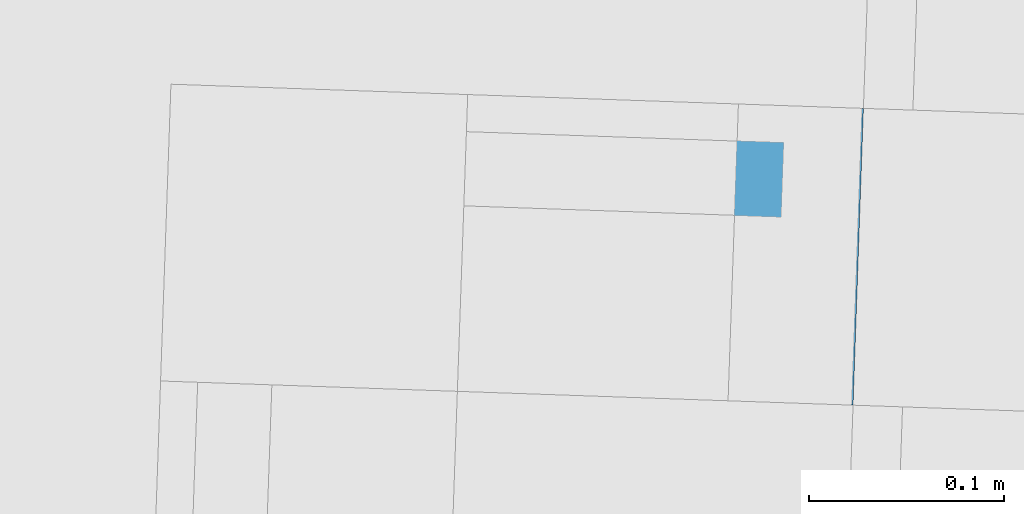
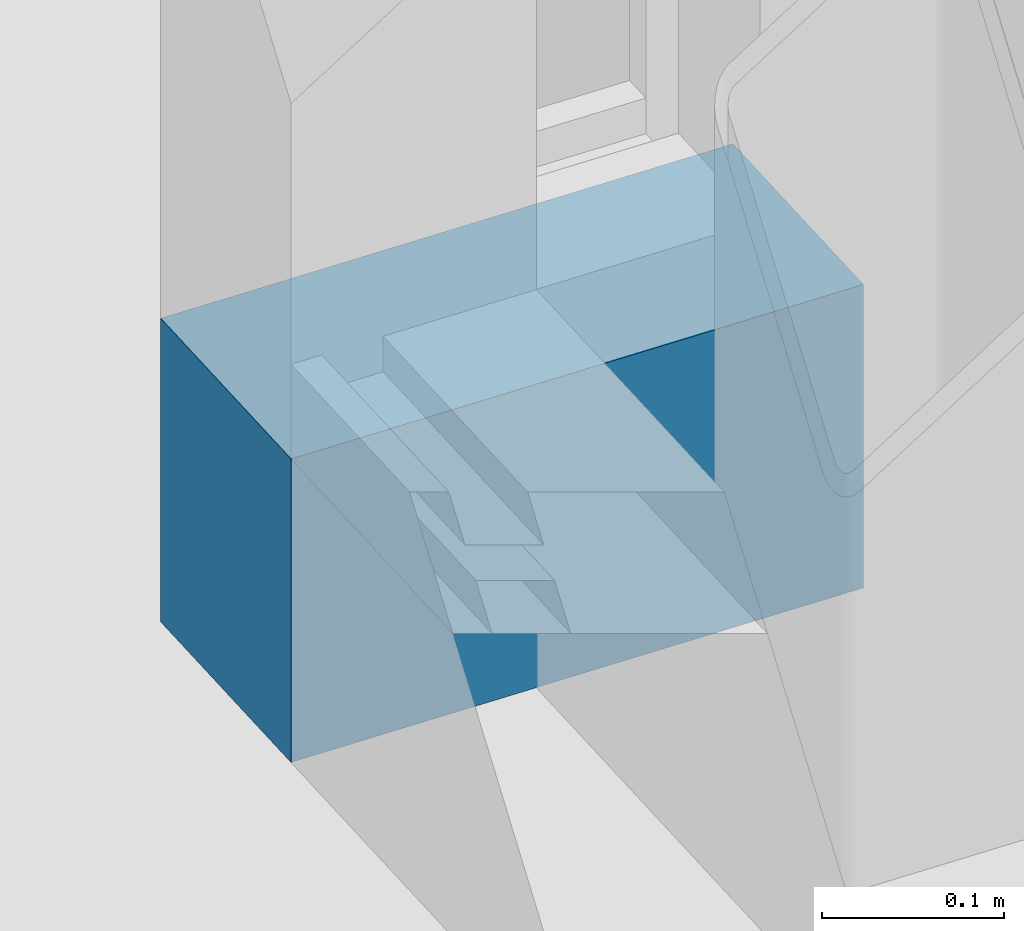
# One storey, part 6 of 8: 1 wall.
"""IFC2X3 building model written with IfcOpenShell, lengths in feet."""

from ifc_helpers import new_model, entity, si_unit, converted_unit, derived_unit, direction, frame, frame_2d, origin, place, context, subcontext, project, spatial, rectangle, extrude, material, layer, layer_set, layer_usage, type_object, element, save


model = new_model("IFC2X3")

# Units and contexts
model_context = context("Model", 3, precision=0.0001, world=origin(), true_north=direction((0.999390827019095, 0.0348994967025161)))
body_context = subcontext(model_context, "Body", "Model", "MODEL_VIEW")
ifc_project = project(units=[converted_unit("LENGTHUNIT", "FOOT", entity("IfcRatioMeasure", 0.3048), si_unit("LENGTHUNIT", "METRE"), dimensions=[1, 0, 0, 0, 0, 0, 0]), converted_unit("AREAUNIT", "SQUARE FOOT", entity("IfcRatioMeasure", 0.09290304), si_unit("AREAUNIT", "SQUARE_METRE"), dimensions=[2, 0, 0, 0, 0, 0, 0]), converted_unit("VOLUMEUNIT", "CUBIC FOOT", entity("IfcRatioMeasure", 0.028316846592), si_unit("VOLUMEUNIT", "CUBIC_METRE"), dimensions=[3, 0, 0, 0, 0, 0, 0]), converted_unit("PLANEANGLEUNIT", "DEGREE", entity("IfcRatioMeasure", 0.0174532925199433), si_unit("PLANEANGLEUNIT", "RADIAN"), dimensions=[0, 0, 0, 0, 0, 0, 0]), si_unit("MASSUNIT", "GRAM", prefix="KILO"), si_unit("TIMEUNIT", "SECOND"), si_unit("FREQUENCYUNIT", "HERTZ"), si_unit("THERMODYNAMICTEMPERATUREUNIT", "DEGREE_CELSIUS"), derived_unit("THERMALTRANSMITTANCEUNIT", [(si_unit("MASSUNIT", "GRAM", prefix="KILO"), 1), (si_unit("THERMODYNAMICTEMPERATUREUNIT", "KELVIN"), -1), (si_unit("TIMEUNIT", "SECOND"), -3)]), derived_unit("VOLUMETRICFLOWRATEUNIT", [(si_unit("LENGTHUNIT", "METRE"), 3), (si_unit("TIMEUNIT", "SECOND"), -1)]), si_unit("ELECTRICCURRENTUNIT", "AMPERE"), si_unit("ELECTRICVOLTAGEUNIT", "VOLT"), si_unit("POWERUNIT", "WATT"), si_unit("FORCEUNIT", "NEWTON"), si_unit("ILLUMINANCEUNIT", "LUX"), si_unit("LUMINOUSFLUXUNIT", "LUMEN"), si_unit("LUMINOUSINTENSITYUNIT", "CANDELA"), derived_unit("USERDEFINED", [(si_unit("MASSUNIT", "GRAM", prefix="KILO"), -1), (si_unit("LENGTHUNIT", "METRE"), -2), (si_unit("TIMEUNIT", "SECOND"), 3), (si_unit("LUMINOUSFLUXUNIT", "LUMEN"), 1)]), derived_unit("LINEARVELOCITYUNIT", [(si_unit("LENGTHUNIT", "METRE"), 1), (si_unit("TIMEUNIT", "SECOND"), -1)]), si_unit("PRESSUREUNIT", "PASCAL"), derived_unit("USERDEFINED", [(si_unit("LENGTHUNIT", "METRE"), -2), (si_unit("MASSUNIT", "GRAM", prefix="KILO"), 1), (si_unit("TIMEUNIT", "SECOND"), -2)])], contexts=[model_context])

# Site, building, storey
site_placement = place(None, frame((892.518771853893, 322.38689265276, 0.00393700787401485), z_axis=(0.0, 0.0, 1.0), x_axis=(0.0348994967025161, 0.999390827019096, 0.0)))
site = spatial("IfcSite", under=ifc_project, at=site_placement, Name="Default", CompositionType="ELEMENT")
building_placement = place(site_placement, origin())
building = spatial("IfcBuilding", under=site, at=building_placement, CompositionType="ELEMENT")
storey_placement = place(building_placement, frame((0.0, 0.0, 607.0)))
storey = spatial("IfcBuildingStorey", under=building, at=storey_placement, Name="Existing Garage - Roof Level", CompositionType="ELEMENT", Elevation=607.0)

# Wall
ifc_material = material(Name="Concrete - Cast-in-Place Concrete")
ifc_layer = layer(ifc_material, 0.5)
ifc_layer_set = layer_set([ifc_layer], Name="Basic Wall:Exterior - Conc 6\"")
ifc_layer_usage = layer_usage(ifc_layer_set, "AXIS2", "NEGATIVE", 0.25)
wall_type = type_object("IfcWallType", Name="Basic Wall:Exterior - Conc 6\"", PredefinedType="STANDARD", material=ifc_layer_set)
wall_placement = place(storey_placement, frame((114.177296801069, 237.68062014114, 0.0), z_axis=(0.0, 0.0, 1.0), x_axis=(0.0, -1.0, 0.0)))
element("IfcWallStandardCase", 1, at=wall_placement, inside=storey, type_object=wall_type, material=ifc_layer_usage, Name="Basic Wall:Exterior - Conc 6\"", ObjectType="Basic Wall:Exterior - Conc 6\"", context=body_context, shape_type="SweptSolid", body=[
    extrude(rectangle(XDim=1.16666666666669, YDim=0.5, at=frame_2d((0.583333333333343, 0.0), x_axis=(-1.0, 0.0))), origin(), (0.0, 0.0, 1.0), 0.666666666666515),
])

save(model, "model.ifc")
